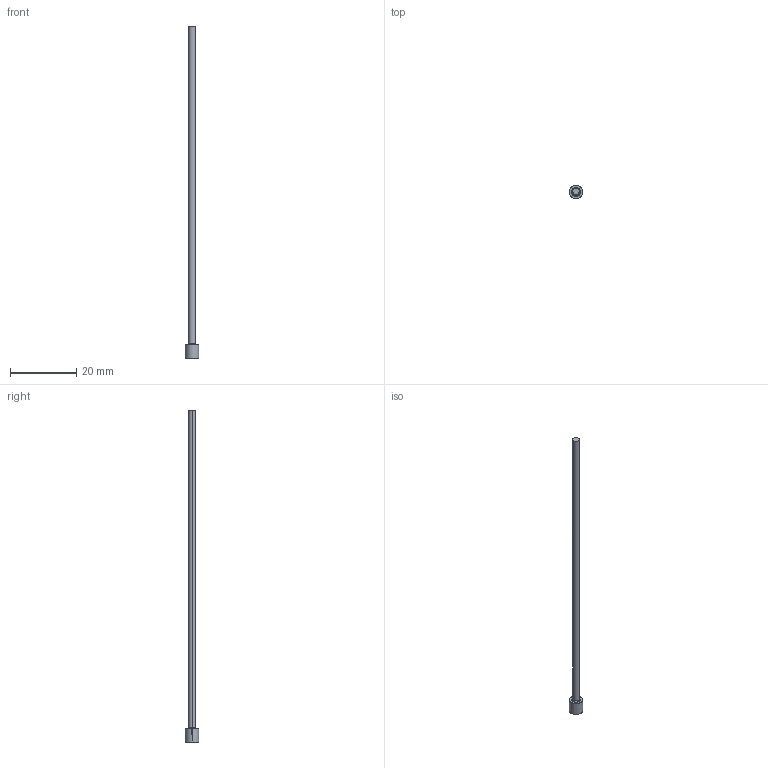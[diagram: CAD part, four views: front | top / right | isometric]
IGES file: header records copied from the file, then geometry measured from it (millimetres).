
Start section: SolidWorks IGES file using analytic representation for surfaces
Global section: file name: D:\Current\W1-2\EPHE-B\EPHE-B2-100.igs; native system: SolidWorks 2017; preprocessor: SolidWorks 2017; author: Ravi Kalvai; date: 240411.172219; units: millimetre
Bounding box: 4 x 4 x 100 mm (x, y, z)
Surface area: 677.8 mm2 (no closed solid volume)
Topology: 0 solids, 0 shells, 9 faces, 152 edges, 152 vertices
Faces by surface type: bspline 5, revolution 4
